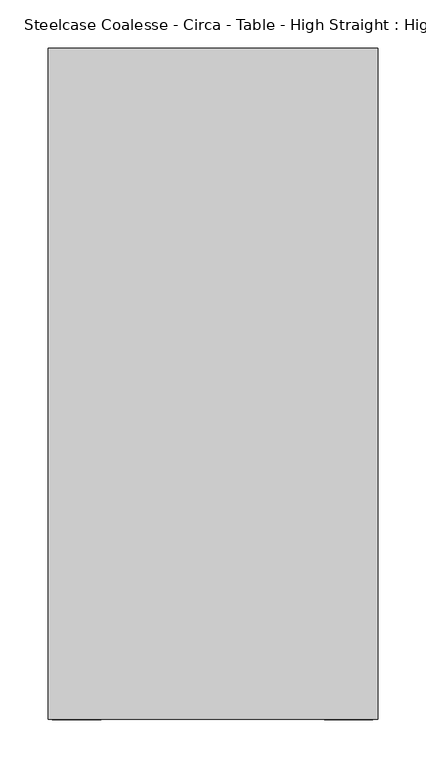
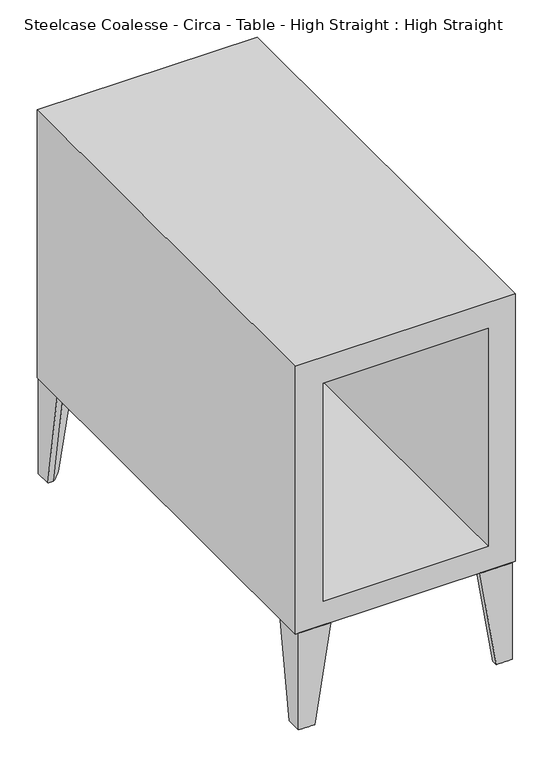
"""IFC4 building model written with IfcOpenShell, lengths in millimetres: furniture geometry, Steelcase Coalesse - Circa - Table - High Straight : High Straight."""

from ifc_helpers import new_model, si_unit, frame, origin, place, context, project, spatial, polyline, outline, extrude, source, transform, mapped, element, save
from ifc_brep_helpers import plane_surface, spline_surface, advanced_brep


def steelcase_coalesse_circa_table_high_straight_high_straight_e4ba7b22(model_context):
    return source(origin(), model_context, "Body", "SolidModel", [
        advanced_brep(
        [(-322.383652, 216.2895471, 0.0), (-322.3836883, 190.8895471, 0.0), (-331.908107, 190.8894881, 0.0), (-347.7821153, 206.7638326, 0.0), (-347.7821017, 216.2895835, 0.0), (-322.3830706, 216.2883602, 159.258), (-373.1811328, 216.2883602, 159.258), (-373.1811464, 206.7637235, 159.258), (-331.9081433, 165.4908931, 159.258), (-322.3831433, 165.4908794, 159.258)],
        [
            (0, 1),
            (1, 2),
            (2, 3),
            (3, 4),
            (4, 0),
            (5, 6),
            (6, 7),
            (7, 8),
            (8, 9),
            (9, 5),
            (9, 1),
            (0, 5),
            (8, 2),
            (7, 3),
            (6, 4),
        ],
        [
            plane_surface(frame((-334.4479329, 204.2243997, 0.0), z_axis=(0.0, 0.0, -1.0000000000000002), x_axis=(1.4305660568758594e-06, 0.9999999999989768, 0.0))),
            plane_surface(frame((-344.6073273, 194.0644433, 159.258), z_axis=(0.0, 0.0, 1.0000000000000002), x_axis=(1.4305660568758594e-06, 0.9999999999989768, 0.0))),
            plane_surface(frame((-322.383107, 190.8896198, 159.258), z_axis=(0.999999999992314, -1.430566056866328e-06, -3.650428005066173e-06), x_axis=(-1.4305660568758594e-06, -0.9999999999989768, 0.0))),
            spline_surface(1, 1, [[(-322.3831433, 165.4908794, 159.258), (-322.3836883, 190.8895471, 0.0)], [(-331.9081433, 165.4908931, 159.258), (-331.908107, 190.8894881, 0.0)]], [2, 2], [2, 2], [0.0, 1.0], [0.0, 1.0]),
            spline_surface(1, 1, [[(-331.9081433, 165.4908931, 159.258), (-331.908107, 190.8894881, 0.0)], [(-373.1811464, 206.7637235, 159.258), (-347.7821153, 206.7638326, 0.0)]], [2, 2], [2, 2], [0.0, 1.0], [0.0, 1.0]),
            plane_surface(frame((-373.1811396, 211.5260419, 159.258), z_axis=(-0.9875200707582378, 1.4127126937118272e-06, -0.15749320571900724), x_axis=(1.4305660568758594e-06, 0.9999999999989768, 0.0))),
            spline_surface(1, 1, [[(-373.1811328, 216.2883602, 159.258), (-347.7821017, 216.2895835, 0.0)], [(-322.3830706, 216.2883602, 159.258), (-322.383652, 216.2895471, 0.0)]], [2, 2], [2, 2], [0.0, 1.0], [0.0, 1.0]),
        ],
        [
            (0, [[1, 2, 3, 4, 5]]),
            (1, [[6, 7, 8, 9, 10]]),
            (2, [[-10, 11, -1, 12]]),
            (3, [[-9, 13, -2, -11]]),
            (4, [[-8, 14, -3, -13]]),
            (5, [[-7, 15, -4, -14]]),
            (6, [[-6, -12, -5, -15]]),
        ],
    ),
        advanced_brep(
        [(-325.4409859, -482.6135189, 0.0), (-350.8394356, -482.6135552, 0.0), (-350.8394492, -473.0878043, 0.0), (-334.9654408, -457.2134598, 0.0), (-325.4410222, -457.2135189, 0.0), (-325.4404045, -482.6123319, 159.258), (-325.4404772, -431.8148512, 159.258), (-334.9654772, -431.8148648, 159.258), (-376.2384803, -473.0876953, 159.258), (-376.2384666, -482.6123319, 159.258)],
        [
            (0, 1),
            (1, 2),
            (2, 3),
            (3, 4),
            (4, 0),
            (5, 6),
            (6, 7),
            (7, 8),
            (8, 9),
            (9, 5),
            (9, 1),
            (0, 5),
            (8, 2),
            (7, 3),
            (6, 4),
        ],
        [
            plane_surface(frame((-337.5052667, -470.5483714, 0.0), z_axis=(0.0, 0.0, -1.0000000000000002), x_axis=(-0.9999999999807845, 6.19929416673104e-06, 0.0))),
            plane_surface(frame((-347.6646611, -460.388415, 159.258), z_axis=(0.0, 0.0, 1.0000000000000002), x_axis=(-0.9999999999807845, 6.19929416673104e-06, 0.0))),
            spline_surface(1, 1, [[(-325.4404045, -482.6123319, 159.258), (-325.4409859, -482.6135189, 0.0)], [(-376.2384666, -482.6123319, 159.258), (-350.8394356, -482.6135552, 0.0)]], [2, 2], [2, 2], [0.0, 1.0], [0.0, 1.0]),
            plane_surface(frame((-376.2384734, -477.8500136, 159.258), z_axis=(-0.9875200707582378, -1.4127126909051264e-06, -0.15749320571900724), x_axis=(-1.4305660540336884e-06, 0.9999999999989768, 0.0))),
            spline_surface(1, 1, [[(-376.2384803, -473.0876953, 159.258), (-350.8394492, -473.0878043, 0.0)], [(-334.9654772, -431.8148648, 159.258), (-334.9654408, -457.2134598, 0.0)]], [2, 2], [2, 2], [0.0, 1.0], [0.0, 1.0]),
            spline_surface(1, 1, [[(-334.9654772, -431.8148648, 159.258), (-334.9654408, -457.2134598, 0.0)], [(-325.4404772, -431.8148512, 159.258), (-325.4410222, -457.2135189, 0.0)]], [2, 2], [2, 2], [0.0, 1.0], [0.0, 1.0]),
            plane_surface(frame((-325.4404408, -457.2135916, 159.258), z_axis=(0.999999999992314, 1.430566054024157e-06, -3.6504280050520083e-06), x_axis=(1.4305660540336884e-06, -0.9999999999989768, 0.0))),
        ],
        [
            (0, [[1, 2, 3, 4, 5]]),
            (1, [[6, 7, 8, 9, 10]]),
            (2, [[-10, 11, -1, 12]]),
            (3, [[-9, 13, -2, -11]]),
            (4, [[-8, 14, -3, -13]]),
            (5, [[-7, 15, -4, -14]]),
            (6, [[-6, -12, -5, -15]]),
        ],
    ),
        advanced_brep(
        [(-661.6348061, 216.2895471, 0.0), (-636.2363564, 216.2895835, 0.0), (-636.2363428, 206.7638326, 0.0), (-652.1103511, 190.8894881, 0.0), (-661.6347698, 190.8895471, 0.0), (-661.6353875, 216.2883602, 159.258), (-661.6353148, 165.4908794, 159.258), (-652.1103148, 165.4908931, 159.258), (-610.8373117, 206.7637235, 159.258), (-610.8373253, 216.2883602, 159.258)],
        [
            (0, 1),
            (1, 2),
            (2, 3),
            (3, 4),
            (4, 0),
            (5, 6),
            (6, 7),
            (7, 8),
            (8, 9),
            (9, 5),
            (9, 1),
            (0, 5),
            (8, 2),
            (7, 3),
            (6, 4),
        ],
        [
            plane_surface(frame((-649.5705252, 204.2243997, 0.0), z_axis=(0.0, 0.0, -1.0000000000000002), x_axis=(0.9999999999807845, -6.199294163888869e-06, 0.0))),
            plane_surface(frame((-639.4111308, 194.0644433, 159.258), z_axis=(0.0, 0.0, 1.0000000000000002), x_axis=(0.9999999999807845, -6.199294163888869e-06, 0.0))),
            spline_surface(1, 1, [[(-661.6353875, 216.2883602, 159.258), (-661.6348061, 216.2895471, 0.0)], [(-610.8373253, 216.2883602, 159.258), (-636.2363564, 216.2895835, 0.0)]], [2, 2], [2, 2], [0.0, 1.0], [0.0, 1.0]),
            plane_surface(frame((-610.8373185, 211.5260419, 159.258), z_axis=(0.9875200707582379, 1.4127126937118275e-06, -0.15749320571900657), x_axis=(1.4305660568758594e-06, -0.9999999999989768, 0.0))),
            spline_surface(1, 1, [[(-610.8373117, 206.7637235, 159.258), (-636.2363428, 206.7638326, 0.0)], [(-652.1103148, 165.4908931, 159.258), (-652.1103511, 190.8894881, 0.0)]], [2, 2], [2, 2], [0.0, 1.0], [0.0, 1.0]),
            spline_surface(1, 1, [[(-652.1103148, 165.4908931, 159.258), (-652.1103511, 190.8894881, 0.0)], [(-661.6353148, 165.4908794, 159.258), (-661.6347698, 190.8895471, 0.0)]], [2, 2], [2, 2], [0.0, 1.0], [0.0, 1.0]),
            plane_surface(frame((-661.6353511, 190.8896198, 159.258), z_axis=(-0.999999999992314, -1.430566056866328e-06, -3.6504280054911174e-06), x_axis=(-1.4305660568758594e-06, 0.9999999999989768, 0.0))),
        ],
        [
            (0, [[1, 2, 3, 4, 5]]),
            (1, [[6, 7, 8, 9, 10]]),
            (2, [[-10, 11, -1, 12]]),
            (3, [[-9, 13, -2, -11]]),
            (4, [[-8, 14, -3, -13]]),
            (5, [[-7, 15, -4, -14]]),
            (6, [[-6, -12, -5, -15]]),
        ],
    ),
        advanced_brep(
        [(-659.3133484, -482.2952682, 0.0), (-659.3133121, -456.8952682, 0.0), (-649.7888935, -456.8952092, 0.0), (-633.9148851, -472.7695536, 0.0), (-633.9148987, -482.2953045, 0.0), (-659.3139298, -482.2940813, 159.258), (-608.5158677, -482.2940813, 159.258), (-608.515854, -472.7694446, 159.258), (-649.7888571, -431.4966141, 159.258), (-659.3138571, -431.4966005, 159.258)],
        [
            (0, 1),
            (1, 2),
            (2, 3),
            (3, 4),
            (4, 0),
            (5, 6),
            (6, 7),
            (7, 8),
            (8, 9),
            (9, 5),
            (9, 1),
            (0, 5),
            (8, 2),
            (7, 3),
            (6, 4),
        ],
        [
            plane_surface(frame((-647.2490676, -470.2301208, 0.0), z_axis=(0.0, 0.0, -1.0000000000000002), x_axis=(-1.4305660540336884e-06, -0.9999999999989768, 0.0))),
            plane_surface(frame((-637.0896732, -460.0701644, 159.258), z_axis=(0.0, 0.0, 1.0000000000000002), x_axis=(-1.4305660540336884e-06, -0.9999999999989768, 0.0))),
            plane_surface(frame((-659.3138935, -456.8953409, 159.258), z_axis=(-0.999999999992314, 1.430566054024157e-06, -3.65042800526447e-06), x_axis=(1.4305660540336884e-06, 0.9999999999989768, 0.0))),
            spline_surface(1, 1, [[(-659.3138571, -431.4966005, 159.258), (-659.3133121, -456.8952682, 0.0)], [(-649.7888571, -431.4966141, 159.258), (-649.7888935, -456.8952092, 0.0)]], [2, 2], [2, 2], [0.0, 1.0], [0.0, 1.0]),
            spline_surface(1, 1, [[(-649.7888571, -431.4966141, 159.258), (-649.7888935, -456.8952092, 0.0)], [(-608.515854, -472.7694446, 159.258), (-633.9148851, -472.7695536, 0.0)]], [2, 2], [2, 2], [0.0, 1.0], [0.0, 1.0]),
            plane_surface(frame((-608.5158609, -477.5317629, 159.258), z_axis=(0.9875200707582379, -1.4127126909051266e-06, -0.15749320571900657), x_axis=(-1.4305660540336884e-06, -0.9999999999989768, 0.0))),
            spline_surface(1, 1, [[(-608.5158677, -482.2940813, 159.258), (-633.9148987, -482.2953045, 0.0)], [(-659.3139298, -482.2940813, 159.258), (-659.3133484, -482.2952682, 0.0)]], [2, 2], [2, 2], [0.0, 1.0], [0.0, 1.0]),
        ],
        [
            (0, [[1, 2, 3, 4, 5]]),
            (1, [[6, 7, 8, 9, 10]]),
            (2, [[-10, 11, -1, 12]]),
            (3, [[-9, 13, -2, -11]]),
            (4, [[-8, 14, -3, -13]]),
            (5, [[-7, 15, -4, -14]]),
            (6, [[-6, -12, -5, -15]]),
        ],
    ),
        extrude(outline(polyline([(600.8928073, -663.917922), (159.258, -663.917922), (159.258, -320.559229), (600.8928073, -320.559229), (600.8928073, -663.917922)]), holes=[polyline([(558.1283005, -620.185477), (558.1283005, -362.7758919), (198.6600761, -362.7758919), (198.6600761, -620.185477), (558.1283005, -620.185477)])]), frame((0.0, -481.8179398, 0.0), z_axis=(0.0, 1.0, 0.0), x_axis=(0.0, 0.0, 1.0)), (0.0, 0.0, 1.0), 698.0582634),
    ])


if __name__ == "__main__":
    model = new_model("IFC4")
    model_context = context("Model", 3, world=origin())
    ifc_project = project(units=[si_unit("LENGTHUNIT", "METRE", prefix="MILLI")], contexts=[model_context])
    site = spatial("IfcSite", under=ifc_project)
    building = spatial("IfcBuilding", under=site)
    placement = place(None, origin())
    steelcase_coalesse_circa_table_high_straight_high_straight_shape = steelcase_coalesse_circa_table_high_straight_high_straight_e4ba7b22(model_context)
    element("IfcFurniture", 1, ObjectType="Steelcase Coalesse - Circa - Table - High Straight : High Straight", at=placement, inside=building, context=model_context, shape_type="MappedRepresentation", body=[
        mapped(steelcase_coalesse_circa_table_high_straight_high_straight_shape, transform((0.0, 0.0, 0.0), x_axis=(1.0, 0.0, 0.0), y_axis=(0.0, 1.0, 0.0), z_axis=(0.0, 0.0, 1.0))),
    ])
    save(model, "model.ifc")
